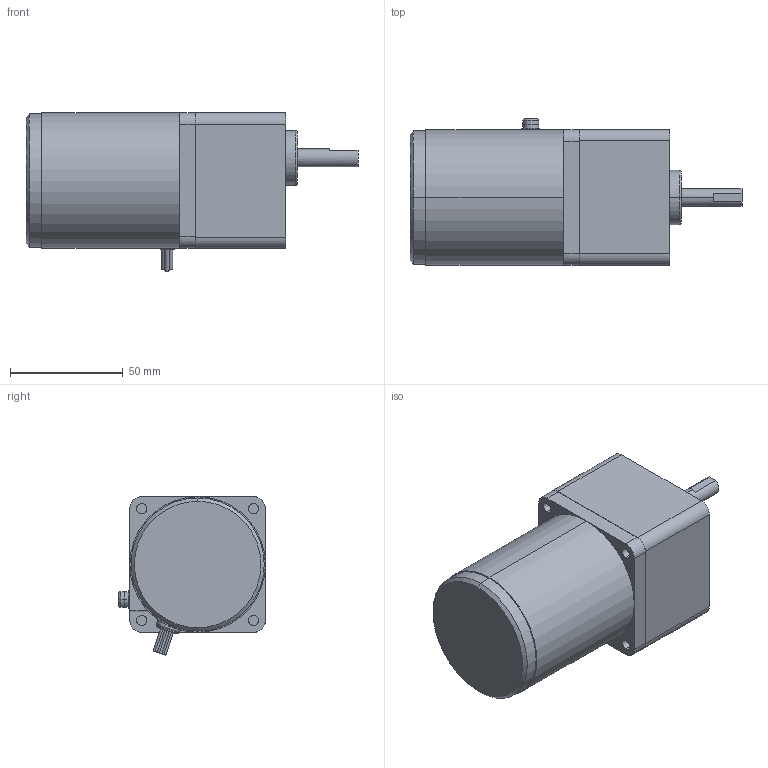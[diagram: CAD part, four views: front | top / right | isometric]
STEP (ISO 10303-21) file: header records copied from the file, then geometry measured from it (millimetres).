
FILE_DESCRIPTION(('starvars output'),'2;1');
FILE_NAME('2IK6GN-SW2 _ 2GN60SA.stp','10:26:33 2015/05/11',( 'Thomas Industrial Network Germany GmbH'),( 'Thomas Industrial Network Germany GmbH'),'unknown preprocess','ACIS' ,'unknown authorization');
FILE_SCHEMA(('AUTOMOTIVE_DESIGN_CC2 {UNKNOWN IMPLEMENTATION LEVEL}'));
Length unit declared in the file: millimetre
Products named in the file (1): PRODUCT_ID_246
Bounding box: 147 x 65 x 70.14 mm (x, y, z)
Volume: 358052.1 mm3; surface area: 35396.3 mm2
Topology: 1 solids, 1 shells, 116 faces, 259 edges, 166 vertices
Faces by surface type: cylinder 56, plane 50, torus 8, cone 2
Entity records: 3896 total; most frequent: CARTESIAN_POINT 543, ORIENTED_EDGE 518, DIRECTION 445, EDGE_CURVE 259, AXIS2_PLACEMENT_3D 169, VERTEX_POINT 166, EDGE_LOOP 137, FACE_BOUND 137
